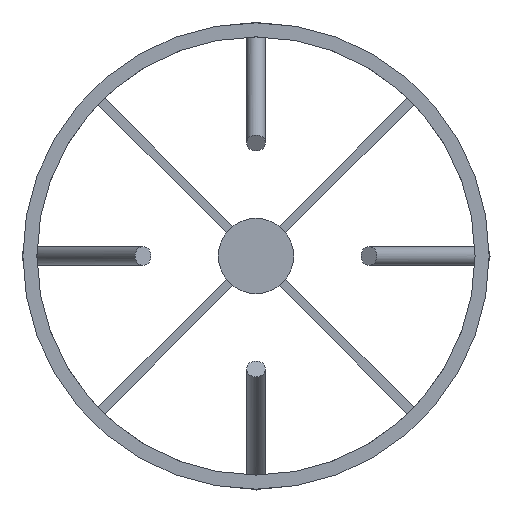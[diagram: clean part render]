
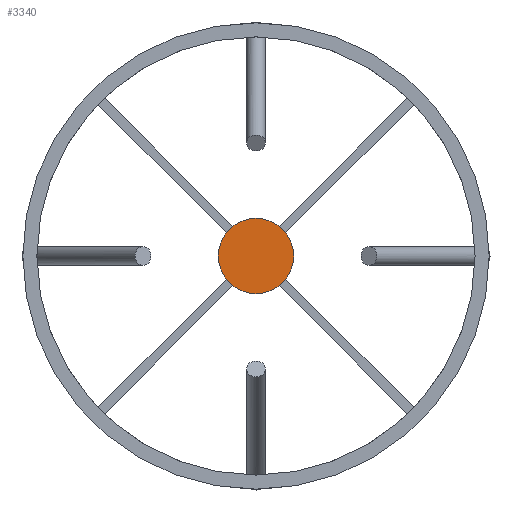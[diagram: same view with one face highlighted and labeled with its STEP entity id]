
A CAD part, left-side view. The second image highlights one B-rep face of the part: STEP entity #3340.
In plain terms, the highlighted planar face has unit normal (-1, 0, 0).
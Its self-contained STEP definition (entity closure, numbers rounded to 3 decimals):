
#2843 = CYLINDRICAL_SURFACE('',#2844,16.);
#2844 = AXIS2_PLACEMENT_3D('',#2845,#2846,#2847);
#2845 = CARTESIAN_POINT('',(751.,0.,0.));
#2846 = DIRECTION('',(-1.,-0.,-0.));
#2847 = DIRECTION('',(0.,1.,0.));
#2879 = EDGE_CURVE('',#2880,#2880,#2882,.T.);
#2880 = VERTEX_POINT('',#2881);
#2881 = CARTESIAN_POINT('',(751.,16.,0.));
#2882 = SURFACE_CURVE('',#2883,(#2888,#2895),.PCURVE_S1.);
#2883 = CIRCLE('',#2884,16.);
#2884 = AXIS2_PLACEMENT_3D('',#2885,#2886,#2887);
#2885 = CARTESIAN_POINT('',(751.,0.,0.));
#2886 = DIRECTION('',(1.,0.,0.));
#2887 = DIRECTION('',(0.,1.,0.));
#2888 = PCURVE('',#2843,#2889);
#2889 = DEFINITIONAL_REPRESENTATION('',(#2890),#2894);
#2890 = LINE('',#2891,#2892);
#2891 = CARTESIAN_POINT('',(-0.,0.));
#2892 = VECTOR('',#2893,1.);
#2893 = DIRECTION('',(-1.,0.));
#2894 = ( GEOMETRIC_REPRESENTATION_CONTEXT(2) 
PARAMETRIC_REPRESENTATION_CONTEXT() REPRESENTATION_CONTEXT('2D SPACE',''
  ) );
#2895 = PCURVE('',#2896,#2901);
#2896 = PLANE('',#2897);
#2897 = AXIS2_PLACEMENT_3D('',#2898,#2899,#2900);
#2898 = CARTESIAN_POINT('',(751.,0.,0.)
  );
#2899 = DIRECTION('',(1.,0.,0.));
#2900 = DIRECTION('',(-0.,0.,1.));
#2901 = DEFINITIONAL_REPRESENTATION('',(#2902),#2906);
#2902 = CIRCLE('',#2903,16.);
#2903 = AXIS2_PLACEMENT_2D('',#2904,#2905);
#2904 = CARTESIAN_POINT('',(0.,0.));
#2905 = DIRECTION('',(0.,-1.));
#2906 = ( GEOMETRIC_REPRESENTATION_CONTEXT(2) 
PARAMETRIC_REPRESENTATION_CONTEXT() REPRESENTATION_CONTEXT('2D SPACE',''
  ) );
#3340 = ADVANCED_FACE('',(#3341),#2896,.F.);
#3341 = FACE_BOUND('',#3342,.F.);
#3342 = EDGE_LOOP('',(#3343));
#3343 = ORIENTED_EDGE('',*,*,#2879,.T.);
